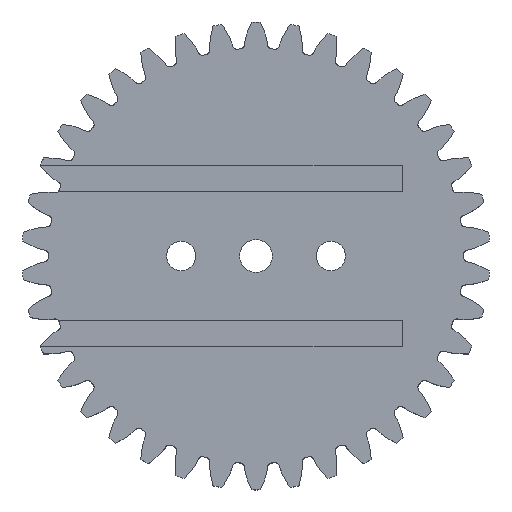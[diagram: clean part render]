
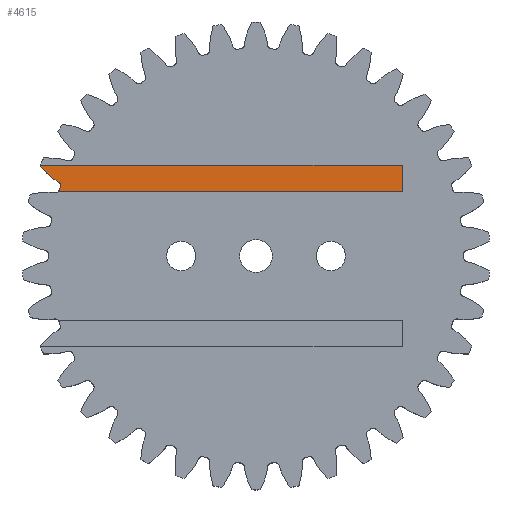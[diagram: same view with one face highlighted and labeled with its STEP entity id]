
A CAD part, top view. The second image highlights one B-rep face of the part: STEP entity #4615.
In plain terms, the highlighted planar face has unit normal (0, 0, 1).
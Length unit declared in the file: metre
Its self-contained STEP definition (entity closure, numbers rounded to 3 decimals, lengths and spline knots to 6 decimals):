
#164=B_SPLINE_CURVE_WITH_KNOTS('',3,(#8986,#8987,#8988,#8989,#8990,#8991,#8992,#8993,#8994,#8995,#8996,#8997,#8998,#8999,#9000,#9001,#9002,#9003,#9004,#9005,#9006,#9007,#9008,#9009,#9010,#9011,#9012,#9013,#9014),.UNSPECIFIED.,.F.,.F.,(4,1,1,1,1,1,1,1,1,1,1,1,1,1,1,1,1,1,1,1,1,1,1,1,1,1,4),(0.,0.042393,0.055762,0.07302,0.09344,0.116594,0.142192,0.17002,0.199912,0.231735,0.265377,0.300746,0.337761,0.376351,0.416456,0.458019,0.500992,0.545329,0.59099,0.637937,0.686137,0.735557,0.786168,0.837942,0.890855,0.944882,0.95799),.UNSPECIFIED.);
#247=PLANE('',#5115);
#490=LINE('',#12709,#738);
#493=LINE('',#12715,#741);
#494=LINE('',#12717,#742);
#738=VECTOR('',#6320,1.);
#741=VECTOR('',#6325,1.);
#742=VECTOR('',#6328,1.);
#2156=ORIENTED_EDGE('',*,*,#2892,.F.);
#2157=ORIENTED_EDGE('',*,*,#2445,.T.);
#2158=ORIENTED_EDGE('',*,*,#2430,.F.);
#2159=ORIENTED_EDGE('',*,*,#2437,.F.);
#2160=ORIENTED_EDGE('',*,*,#2433,.T.);
#2161=ORIENTED_EDGE('',*,*,#2440,.F.);
#2162=ORIENTED_EDGE('',*,*,#2895,.T.);
#2163=ORIENTED_EDGE('',*,*,#2896,.F.);
#2430=EDGE_CURVE('',#3143,#3145,#164,.T.);
#2433=EDGE_CURVE('',#3147,#3148,#3541,.T.);
#2437=EDGE_CURVE('',#3147,#3143,#3543,.T.);
#2440=EDGE_CURVE('',#3151,#3148,#3545,.T.);
#2445=EDGE_CURVE('',#3155,#3145,#3549,.T.);
#2892=EDGE_CURVE('',#3155,#3380,#490,.T.);
#2895=EDGE_CURVE('',#3151,#3381,#493,.T.);
#2896=EDGE_CURVE('',#3380,#3381,#494,.T.);
#3143=VERTEX_POINT('',#8984);
#3145=VERTEX_POINT('',#9015);
#3147=VERTEX_POINT('',#9049);
#3148=VERTEX_POINT('',#9050);
#3151=VERTEX_POINT('',#9061);
#3155=VERTEX_POINT('',#9074);
#3380=VERTEX_POINT('',#12710);
#3381=VERTEX_POINT('',#12714);
#3541=CIRCLE('',#4795,0.0355);
#3543=CIRCLE('',#4798,0.000712);
#3545=CIRCLE('',#4801,0.000712);
#3549=CIRCLE('',#4808,0.04);
#3955=EDGE_LOOP('',(#2156,#2157,#2158,#2159,#2160,#2161,#2162,#2163));
#4213=FACE_BOUND('',#3955,.T.);
#4615=ADVANCED_FACE('',(#4213),#247,.T.);
#4795=AXIS2_PLACEMENT_3D('',#9048,#5460,#5461);
#4798=AXIS2_PLACEMENT_3D('',#9057,#5468,#5469);
#4801=AXIS2_PLACEMENT_3D('',#9062,#5475,#5476);
#4808=AXIS2_PLACEMENT_3D('',#9073,#5490,#5491);
#5115=AXIS2_PLACEMENT_3D('',#12718,#6329,#6330);
#5460=DIRECTION('',(0.,0.,1.));
#5461=DIRECTION('',(0.325,0.946,0.));
#5468=DIRECTION('',(0.,0.,1.));
#5469=DIRECTION('',(0.325,0.946,0.));
#5475=DIRECTION('',(0.,0.,1.));
#5476=DIRECTION('',(0.325,0.946,0.));
#5490=DIRECTION('',(0.,0.,1.));
#5491=DIRECTION('',(0.,-1.,0.));
#6320=DIRECTION('',(1.,0.,0.));
#6325=DIRECTION('',(1.,0.,0.));
#6328=DIRECTION('',(0.,-1.,0.));
#6329=DIRECTION('',(0.,0.,1.));
#6330=DIRECTION('',(1.,0.,0.));
#8984=CARTESIAN_POINT('',(-0.033809,0.012657,0.002));
#8986=CARTESIAN_POINT('',(-0.03326,0.01241,0.002));
#8987=CARTESIAN_POINT('',(-0.033346,0.012442,0.002));
#8988=CARTESIAN_POINT('',(-0.033459,0.012484,0.002));
#8989=CARTESIAN_POINT('',(-0.033481,0.012493,0.002));
#8990=CARTESIAN_POINT('',(-0.033517,0.012509,0.002));
#8991=CARTESIAN_POINT('',(-0.033561,0.012529,0.002));
#8992=CARTESIAN_POINT('',(-0.033619,0.012557,0.002));
#8993=CARTESIAN_POINT('',(-0.033689,0.012592,0.002));
#8994=CARTESIAN_POINT('',(-0.033771,0.012636,0.002));
#8995=CARTESIAN_POINT('',(-0.033865,0.012688,0.002));
#8996=CARTESIAN_POINT('',(-0.03397,0.012749,0.002));
#8997=CARTESIAN_POINT('',(-0.034086,0.012819,0.002));
#8998=CARTESIAN_POINT('',(-0.034212,0.0129,0.002));
#8999=CARTESIAN_POINT('',(-0.034349,0.012991,0.002));
#9000=CARTESIAN_POINT('',(-0.034496,0.013093,0.002));
#9001=CARTESIAN_POINT('',(-0.034652,0.013206,0.002));
#9002=CARTESIAN_POINT('',(-0.034817,0.013331,0.002));
#9003=CARTESIAN_POINT('',(-0.034991,0.013468,0.002));
#9004=CARTESIAN_POINT('',(-0.035173,0.013617,0.002));
#9005=CARTESIAN_POINT('',(-0.035363,0.01378,0.002));
#9006=CARTESIAN_POINT('',(-0.035561,0.013955,0.002));
#9007=CARTESIAN_POINT('',(-0.035765,0.014145,0.002));
#9008=CARTESIAN_POINT('',(-0.035976,0.014348,0.002));
#9009=CARTESIAN_POINT('',(-0.036193,0.014565,0.002));
#9010=CARTESIAN_POINT('',(-0.036415,0.014797,0.002));
#9011=CARTESIAN_POINT('',(-0.036642,0.015045,0.002));
#9012=CARTESIAN_POINT('',(-0.036814,0.015239,0.002));
#9013=CARTESIAN_POINT('',(-0.03691,0.01535,0.002));
#9014=CARTESIAN_POINT('',(-0.036928,0.015372,0.002));
#9015=CARTESIAN_POINT('',(-0.036928,0.015372,0.002));
#9048=CARTESIAN_POINT('',(0.,0.,0.002));
#9049=CARTESIAN_POINT('',(-0.033483,0.011797,0.002));
#9050=CARTESIAN_POINT('',(-0.033668,0.011256,0.002));
#9057=CARTESIAN_POINT('',(-0.034154,0.012034,0.002));
#9061=CARTESIAN_POINT('',(-0.033819,0.011,0.002));
#9062=CARTESIAN_POINT('',(-0.034344,0.011482,0.002));
#9073=CARTESIAN_POINT('',(0.,0.,0.002));
#9074=CARTESIAN_POINT('',(-0.036875,0.0155,0.002));
#12709=CARTESIAN_POINT('',(-0.014688,0.0155,0.002));
#12710=CARTESIAN_POINT('',(0.025,0.0155,0.002));
#12714=CARTESIAN_POINT('',(0.025,0.011,0.002));
#12715=CARTESIAN_POINT('',(-0.014688,0.011,0.002));
#12717=CARTESIAN_POINT('',(0.025,0.01325,0.002));
#12718=CARTESIAN_POINT('',(-0.007229,0.,0.002));
